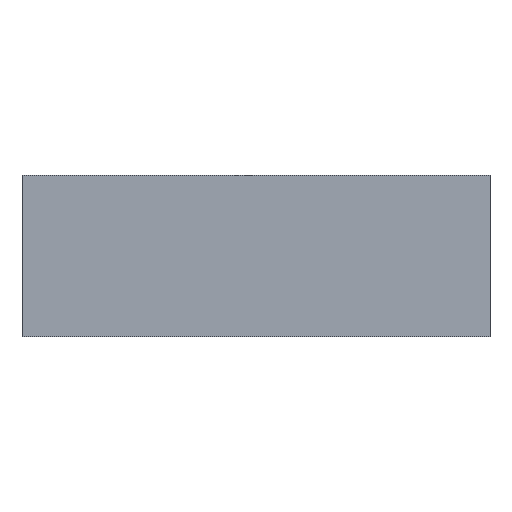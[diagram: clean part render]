
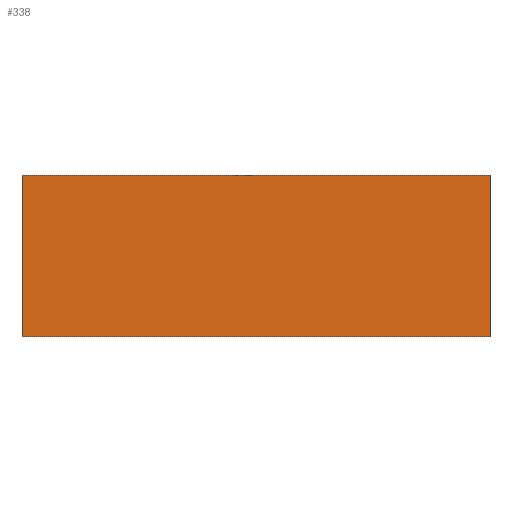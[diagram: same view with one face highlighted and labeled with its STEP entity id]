
A CAD part, top view. The second image highlights one B-rep face of the part: STEP entity #338.
In plain terms, the highlighted planar face has unit normal (0, 0, 1).
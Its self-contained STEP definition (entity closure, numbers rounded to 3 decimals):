
#24 = VERTEX_POINT('',#25);
#25 = CARTESIAN_POINT('',(-5.5,-1.9,1.1));
#32 = PLANE('',#33);
#33 = AXIS2_PLACEMENT_3D('',#34,#35,#36);
#34 = CARTESIAN_POINT('',(-5.5,-1.9,0.));
#35 = DIRECTION('',(1.,0.,0.));
#36 = DIRECTION('',(0.,0.,1.));
#44 = PLANE('',#45);
#45 = AXIS2_PLACEMENT_3D('',#46,#47,#48);
#46 = CARTESIAN_POINT('',(-5.5,-1.9,0.));
#47 = DIRECTION('',(0.,1.,0.));
#48 = DIRECTION('',(0.,0.,1.));
#85 = VERTEX_POINT('',#86);
#86 = CARTESIAN_POINT('',(-5.5,1.9,1.1));
#100 = PLANE('',#101);
#101 = AXIS2_PLACEMENT_3D('',#102,#103,#104);
#102 = CARTESIAN_POINT('',(-5.5,1.9,0.));
#103 = DIRECTION('',(0.,1.,0.));
#104 = DIRECTION('',(0.,0.,1.));
#112 = EDGE_CURVE('',#24,#85,#113,.T.);
#113 = SURFACE_CURVE('',#114,(#118,#125),.PCURVE_S1.);
#114 = LINE('',#115,#116);
#115 = CARTESIAN_POINT('',(-5.5,-1.9,1.1));
#116 = VECTOR('',#117,1.);
#117 = DIRECTION('',(0.,1.,0.));
#118 = PCURVE('',#32,#119);
#119 = DEFINITIONAL_REPRESENTATION('',(#120),#124);
#120 = LINE('',#121,#122);
#121 = CARTESIAN_POINT('',(1.1,0.));
#122 = VECTOR('',#123,1.);
#123 = DIRECTION('',(0.,-1.));
#124 = ( GEOMETRIC_REPRESENTATION_CONTEXT(2) 
PARAMETRIC_REPRESENTATION_CONTEXT() REPRESENTATION_CONTEXT('2D SPACE',''
  ) );
#125 = PCURVE('',#126,#131);
#126 = PLANE('',#127);
#127 = AXIS2_PLACEMENT_3D('',#128,#129,#130);
#128 = CARTESIAN_POINT('',(-5.5,-1.9,1.1));
#129 = DIRECTION('',(0.,0.,1.));
#130 = DIRECTION('',(1.,0.,0.));
#131 = DEFINITIONAL_REPRESENTATION('',(#132),#136);
#132 = LINE('',#133,#134);
#133 = CARTESIAN_POINT('',(0.,0.));
#134 = VECTOR('',#135,1.);
#135 = DIRECTION('',(0.,1.));
#136 = ( GEOMETRIC_REPRESENTATION_CONTEXT(2) 
PARAMETRIC_REPRESENTATION_CONTEXT() REPRESENTATION_CONTEXT('2D SPACE',''
  ) );
#144 = VERTEX_POINT('',#145);
#145 = CARTESIAN_POINT('',(5.5,-1.9,1.1));
#152 = PLANE('',#153);
#153 = AXIS2_PLACEMENT_3D('',#154,#155,#156);
#154 = CARTESIAN_POINT('',(5.5,-1.9,0.));
#155 = DIRECTION('',(1.,0.,0.));
#156 = DIRECTION('',(0.,0.,1.));
#195 = VERTEX_POINT('',#196);
#196 = CARTESIAN_POINT('',(5.5,1.9,1.1));
#217 = EDGE_CURVE('',#144,#195,#218,.T.);
#218 = SURFACE_CURVE('',#219,(#223,#230),.PCURVE_S1.);
#219 = LINE('',#220,#221);
#220 = CARTESIAN_POINT('',(5.5,-1.9,1.1));
#221 = VECTOR('',#222,1.);
#222 = DIRECTION('',(0.,1.,0.));
#223 = PCURVE('',#152,#224);
#224 = DEFINITIONAL_REPRESENTATION('',(#225),#229);
#225 = LINE('',#226,#227);
#226 = CARTESIAN_POINT('',(1.1,0.));
#227 = VECTOR('',#228,1.);
#228 = DIRECTION('',(0.,-1.));
#229 = ( GEOMETRIC_REPRESENTATION_CONTEXT(2) 
PARAMETRIC_REPRESENTATION_CONTEXT() REPRESENTATION_CONTEXT('2D SPACE',''
  ) );
#230 = PCURVE('',#126,#231);
#231 = DEFINITIONAL_REPRESENTATION('',(#232),#236);
#232 = LINE('',#233,#234);
#233 = CARTESIAN_POINT('',(11.,0.));
#234 = VECTOR('',#235,1.);
#235 = DIRECTION('',(0.,1.));
#236 = ( GEOMETRIC_REPRESENTATION_CONTEXT(2) 
PARAMETRIC_REPRESENTATION_CONTEXT() REPRESENTATION_CONTEXT('2D SPACE',''
  ) );
#263 = EDGE_CURVE('',#24,#144,#264,.T.);
#264 = SURFACE_CURVE('',#265,(#269,#276),.PCURVE_S1.);
#265 = LINE('',#266,#267);
#266 = CARTESIAN_POINT('',(-5.5,-1.9,1.1));
#267 = VECTOR('',#268,1.);
#268 = DIRECTION('',(1.,0.,0.));
#269 = PCURVE('',#44,#270);
#270 = DEFINITIONAL_REPRESENTATION('',(#271),#275);
#271 = LINE('',#272,#273);
#272 = CARTESIAN_POINT('',(1.1,0.));
#273 = VECTOR('',#274,1.);
#274 = DIRECTION('',(0.,1.));
#275 = ( GEOMETRIC_REPRESENTATION_CONTEXT(2) 
PARAMETRIC_REPRESENTATION_CONTEXT() REPRESENTATION_CONTEXT('2D SPACE',''
  ) );
#276 = PCURVE('',#126,#277);
#277 = DEFINITIONAL_REPRESENTATION('',(#278),#282);
#278 = LINE('',#279,#280);
#279 = CARTESIAN_POINT('',(0.,0.));
#280 = VECTOR('',#281,1.);
#281 = DIRECTION('',(1.,0.));
#282 = ( GEOMETRIC_REPRESENTATION_CONTEXT(2) 
PARAMETRIC_REPRESENTATION_CONTEXT() REPRESENTATION_CONTEXT('2D SPACE',''
  ) );
#310 = EDGE_CURVE('',#85,#195,#311,.T.);
#311 = SURFACE_CURVE('',#312,(#316,#323),.PCURVE_S1.);
#312 = LINE('',#313,#314);
#313 = CARTESIAN_POINT('',(-5.5,1.9,1.1));
#314 = VECTOR('',#315,1.);
#315 = DIRECTION('',(1.,0.,0.));
#316 = PCURVE('',#100,#317);
#317 = DEFINITIONAL_REPRESENTATION('',(#318),#322);
#318 = LINE('',#319,#320);
#319 = CARTESIAN_POINT('',(1.1,0.));
#320 = VECTOR('',#321,1.);
#321 = DIRECTION('',(0.,1.));
#322 = ( GEOMETRIC_REPRESENTATION_CONTEXT(2) 
PARAMETRIC_REPRESENTATION_CONTEXT() REPRESENTATION_CONTEXT('2D SPACE',''
  ) );
#323 = PCURVE('',#126,#324);
#324 = DEFINITIONAL_REPRESENTATION('',(#325),#329);
#325 = LINE('',#326,#327);
#326 = CARTESIAN_POINT('',(0.,3.8));
#327 = VECTOR('',#328,1.);
#328 = DIRECTION('',(1.,0.));
#329 = ( GEOMETRIC_REPRESENTATION_CONTEXT(2) 
PARAMETRIC_REPRESENTATION_CONTEXT() REPRESENTATION_CONTEXT('2D SPACE',''
  ) );
#338 = ADVANCED_FACE('',(#339),#126,.T.);
#339 = FACE_BOUND('',#340,.T.);
#340 = EDGE_LOOP('',(#341,#342,#343,#344));
#341 = ORIENTED_EDGE('',*,*,#112,.F.);
#342 = ORIENTED_EDGE('',*,*,#263,.T.);
#343 = ORIENTED_EDGE('',*,*,#217,.T.);
#344 = ORIENTED_EDGE('',*,*,#310,.F.);
